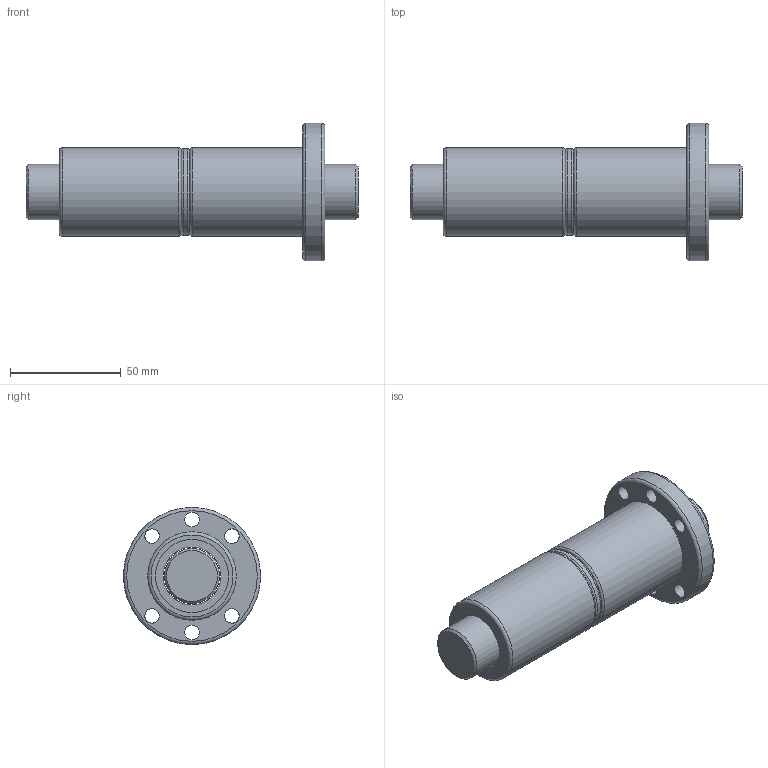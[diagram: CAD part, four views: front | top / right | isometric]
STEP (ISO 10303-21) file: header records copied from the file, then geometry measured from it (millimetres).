
FILE_DESCRIPTION(/* description */ (''),/* implementation_level */ '2;1');
FILE_NAME(/* name */ 'DFU2508',/* time_stamp */ '2007-10-26T10:54:34+08:00',/* author */ (''),/* organization */ (''),/* preprocessor_version */ 'ST-DEVELOPER v9',/* originating_system */ 'EDS PLM SOLUTIONS - UNIGRAPHICS NX 1.0',/* authorisation */ '');
FILE_SCHEMA (('CONFIG_CONTROL_DESIGN'));
Length unit declared in the file: millimetre
Products named in the file (1): FANNDA0400cr
Bounding box: 150 x 62 x 62 mm (x, y, z)
Volume: 175612 mm3; surface area: 50052.7 mm2
Topology: 6 solids, 6 shells, 44 faces, 83 edges, 54 vertices
Faces by surface type: cylinder 20, plane 15, torus 7, cone 2
Full cylindrical faces by diameter (mm): 6.6 x6, 25 x1, 26 x5, 33 x4, 39 x1, 40 x2, 62 x1
Entity records: 1054 total; most frequent: DIRECTION 188, CARTESIAN_POINT 143, EDGE_LOOP 98, ORIENTED_EDGE 98, AXIS2_PLACEMENT_3D 94, FACE_BOUND 81, VERTEX_POINT 49, EDGE_CURVE 49
